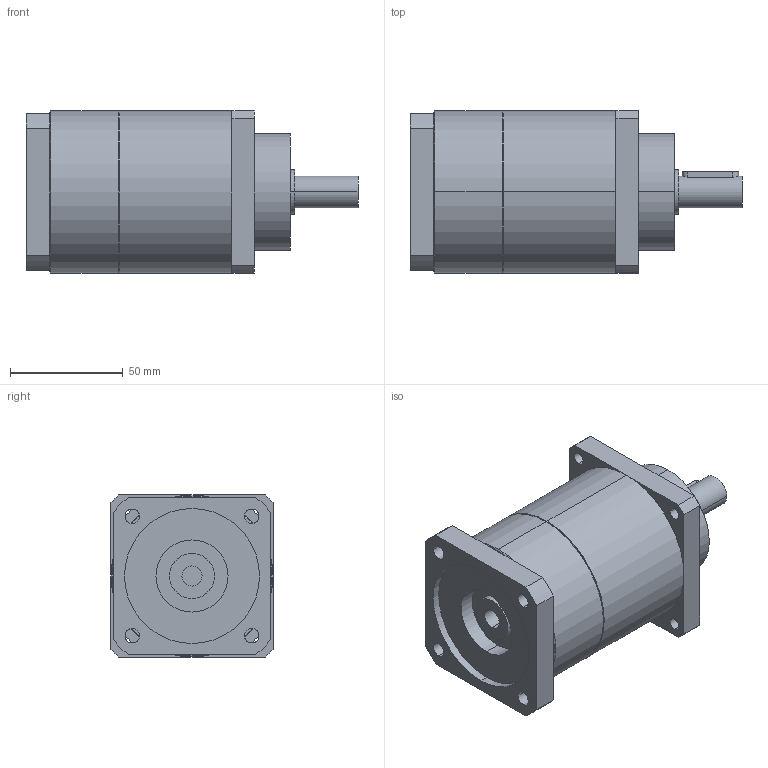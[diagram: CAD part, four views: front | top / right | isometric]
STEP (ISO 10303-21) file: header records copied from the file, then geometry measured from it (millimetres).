
FILE_DESCRIPTION(('CoCreate Modeling STEP Export'),'2;1');
FILE_NAME('GPT75_ig-9-12-16-20-25-28-35-40-50-70-100_14_B5T_9_P04.stp','2014-08-27T13:43:49',(''),(''),'CoCreate Modeling STEP processor for AP214 (Solid Model)','CoCreate Modeling 16.00C 25-Feb-2009 (C) Parametric Technology GmbH','');
FILE_SCHEMA(('AUTOMOTIVE_DESIGN { 1 0 10303 214 1 1 1 1 }'));
Length unit declared in the file: millimetre
Products named in the file (2): GPT75_ig-9-12-16-20-25-28-35-40-50-70-100_14_B5T_9_P04
Assembly tree (1 placements, depth 2):
  GPT75_ig-9-12-16-20-25-28-35-40-50-70-100_14_B5T_9_P04
    GPT75_ig-9-12-16-20-25-28-35-40-50-70-100_14_B5T_9_P04
Bounding box: 147.5 x 72 x 72 mm (x, y, z)
Volume: 452041.8 mm3; surface area: 43959.5 mm2
Topology: 1 solids, 1 shells, 88 faces, 220 edges, 139 vertices
Faces by surface type: cylinder 46, plane 38, cone 4
Entity records: 2646 total; most frequent: CARTESIAN_POINT 738, ORIENTED_EDGE 440, DIRECTION 334, EDGE_CURVE 220, VERTEX_POINT 139, AXIS2_PLACEMENT_3D 123, EDGE_LOOP 109, VECTOR 88
